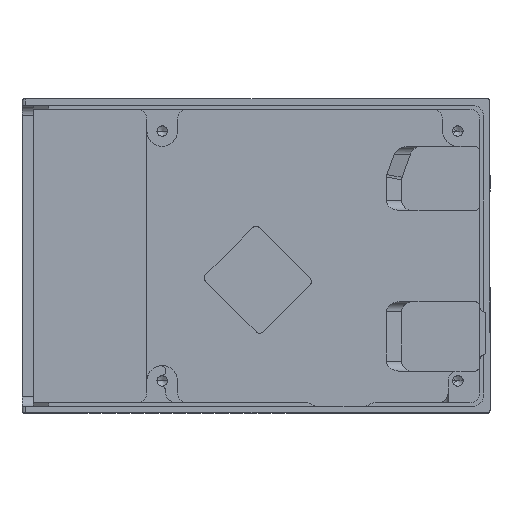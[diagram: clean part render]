
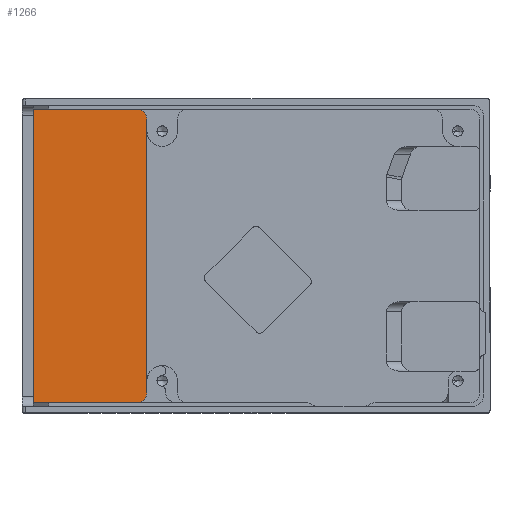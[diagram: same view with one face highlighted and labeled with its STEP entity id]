
A CAD part, top view. The second image highlights one B-rep face of the part: STEP entity #1266.
In plain terms, the highlighted planar face has unit normal (0, 0, 1).
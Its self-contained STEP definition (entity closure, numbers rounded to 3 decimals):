
#285 = VECTOR ( 'NONE', #5926, 1000. ) ;
#291 = CARTESIAN_POINT ( 'NONE',  ( -21.4, 26.8, 4. ) ) ;
#557 = LINE ( 'NONE', #7698, #5950 ) ;
#721 = DIRECTION ( 'NONE',  ( 1., 0., 0. ) ) ;
#842 = EDGE_CURVE ( 'NONE', #5720, #1736, #3150, .T. ) ;
#1266 = ADVANCED_FACE ( 'NONE', ( #4332 ), #8092, .T. ) ;
#1460 = CARTESIAN_POINT ( 'NONE',  ( -21.4, -26.8, 4. ) ) ;
#1485 = ORIENTED_EDGE ( 'NONE', *, *, #6832, .T. ) ;
#1736 = VERTEX_POINT ( 'NONE', #291 ) ;
#1940 = DIRECTION ( 'NONE',  ( 0., 0., 1. ) ) ;
#2168 = CARTESIAN_POINT ( 'NONE',  ( -43.7, 28.8, 4. ) ) ;
#2488 = CARTESIAN_POINT ( 'NONE',  ( -23.4, -28.8, 4. ) ) ;
#2747 = LINE ( 'NONE', #6422, #4728 ) ;
#3150 = LINE ( 'NONE', #6777, #285 ) ;
#3273 = CARTESIAN_POINT ( 'NONE',  ( -43.7, 28.8, 4. ) ) ;
#3368 = EDGE_CURVE ( 'NONE', #1736, #6012, #8761, .T. ) ;
#3420 = ORIENTED_EDGE ( 'NONE', *, *, #8876, .T. ) ;
#3449 = AXIS2_PLACEMENT_3D ( 'NONE', #5159, #8064, #6632 ) ;
#3539 = LINE ( 'NONE', #2168, #8165 ) ;
#3628 = CIRCLE ( 'NONE', #5602, 2. ) ;
#3716 = ORIENTED_EDGE ( 'NONE', *, *, #842, .T. ) ;
#3858 = ORIENTED_EDGE ( 'NONE', *, *, #3368, .T. ) ;
#4154 = CARTESIAN_POINT ( 'NONE',  ( -23.4, 28.8, 4. ) ) ;
#4156 = DIRECTION ( 'NONE',  ( 0., -1., 0. ) ) ;
#4332 = FACE_OUTER_BOUND ( 'NONE', #5072, .T. ) ;
#4489 = EDGE_CURVE ( 'NONE', #9148, #5720, #3628, .T. ) ;
#4728 = VECTOR ( 'NONE', #7985, 1000. ) ;
#5072 = EDGE_LOOP ( 'NONE', ( #3716, #3858, #5813, #3420, #1485, #5710 ) ) ;
#5159 = CARTESIAN_POINT ( 'NONE',  ( -23.4, 26.8, 4. ) ) ;
#5236 = CARTESIAN_POINT ( 'NONE',  ( 0., 0., 4. ) ) ;
#5602 = AXIS2_PLACEMENT_3D ( 'NONE', #8442, #1940, #721 ) ;
#5710 = ORIENTED_EDGE ( 'NONE', *, *, #4489, .T. ) ;
#5720 = VERTEX_POINT ( 'NONE', #1460 ) ;
#5813 = ORIENTED_EDGE ( 'NONE', *, *, #7004, .T. ) ;
#5926 = DIRECTION ( 'NONE',  ( 0., 1., 0. ) ) ;
#5950 = VECTOR ( 'NONE', #7568, 1000. ) ;
#6012 = VERTEX_POINT ( 'NONE', #4154 ) ;
#6422 = CARTESIAN_POINT ( 'NONE',  ( -43.7, 28.8, 4. ) ) ;
#6632 = DIRECTION ( 'NONE',  ( 1., 0., 0. ) ) ;
#6777 = CARTESIAN_POINT ( 'NONE',  ( -21.4, 28.8, 4. ) ) ;
#6832 = EDGE_CURVE ( 'NONE', #8746, #9148, #557, .T. ) ;
#7004 = EDGE_CURVE ( 'NONE', #6012, #7166, #2747, .T. ) ;
#7166 = VERTEX_POINT ( 'NONE', #3273 ) ;
#7213 = DIRECTION ( 'NONE',  ( 1., 0., 0. ) ) ;
#7379 = AXIS2_PLACEMENT_3D ( 'NONE', #5236, #8133, #7213 ) ;
#7568 = DIRECTION ( 'NONE',  ( 1., 0., 0. ) ) ;
#7638 = CARTESIAN_POINT ( 'NONE',  ( -43.7, -28.8, 4. ) ) ;
#7698 = CARTESIAN_POINT ( 'NONE',  ( -43.7, -28.8, 4. ) ) ;
#7985 = DIRECTION ( 'NONE',  ( -1., 0., 0. ) ) ;
#8064 = DIRECTION ( 'NONE',  ( 0., 0., 1. ) ) ;
#8092 = PLANE ( 'NONE',  #7379 ) ;
#8133 = DIRECTION ( 'NONE',  ( 0., 0., 1. ) ) ;
#8165 = VECTOR ( 'NONE', #4156, 1000. ) ;
#8442 = CARTESIAN_POINT ( 'NONE',  ( -23.4, -26.8, 4. ) ) ;
#8746 = VERTEX_POINT ( 'NONE', #7638 ) ;
#8761 = CIRCLE ( 'NONE', #3449, 2. ) ;
#8876 = EDGE_CURVE ( 'NONE', #7166, #8746, #3539, .T. ) ;
#9148 = VERTEX_POINT ( 'NONE', #2488 ) ;
